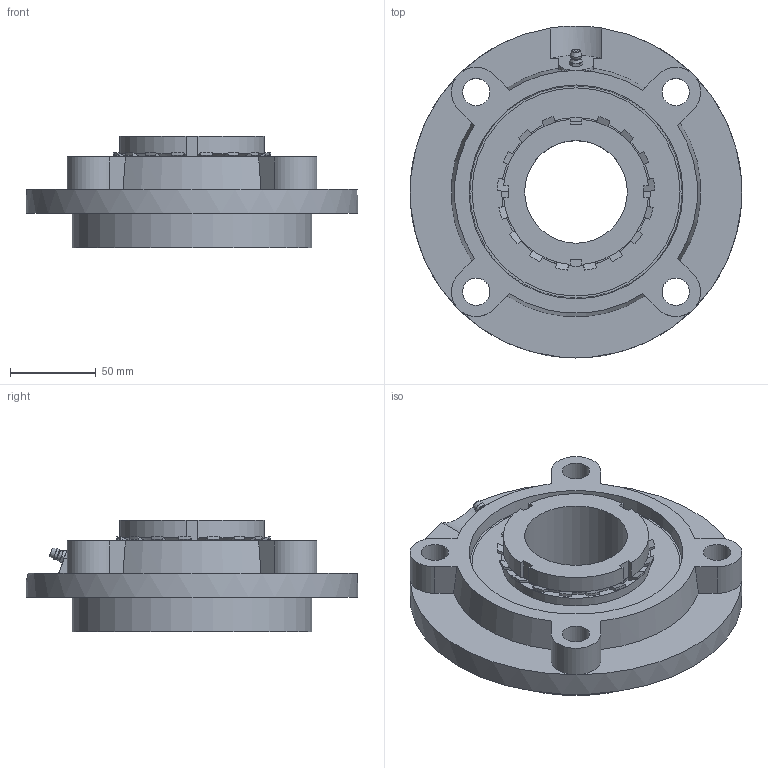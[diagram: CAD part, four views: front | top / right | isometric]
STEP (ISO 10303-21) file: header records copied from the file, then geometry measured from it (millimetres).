
FILE_DESCRIPTION((''),'2;1');
FILE_NAME('\\Ts-tgl068\j-cad-d-base\00.3DCADデータ作成フォルダ\02.フランジ形\UKFCX\UKFCX13+H.stp','2014-12-10T08:25:06',('btec_1106_2'),(''),'Autodesk Inventor 2012','Autodesk Inventor 2012','');
FILE_SCHEMA(('AUTOMOTIVE_DESIGN { 1 0 10303 214 1 1 1 1 }'));
Length unit declared in the file: millimetre
Products named in the file (4): UKFCX00+H; FCX13; UKX13+H; GU1
Assembly tree (3 placements, depth 2):
  UKFCX00+H
    FCX13
    UKX13+H
    GU1
Bounding box: 194 x 194 x 65 mm (x, y, z)
Volume: 752637.1 mm3; surface area: 146983.5 mm2
Topology: 3 solids, 3 shells, 208 faces, 527 edges, 333 vertices
Faces by surface type: plane 89, cone 57, cylinder 56, sphere 4, torus 2
Full cylindrical faces by diameter (mm): 5.359 x1, 6.35 x1, 16 x4, 60 x1, 65 x1, 87 x2, 140 x1, 194 x1
Entity records: 6201 total; most frequent: CARTESIAN_POINT 1345, DIRECTION 996, ORIENTED_EDGE 996, EDGE_CURVE 498, AXIS2_PLACEMENT_3D 404, VERTEX_POINT 326, EDGE_LOOP 254, FACE_OUTER_BOUND 208
